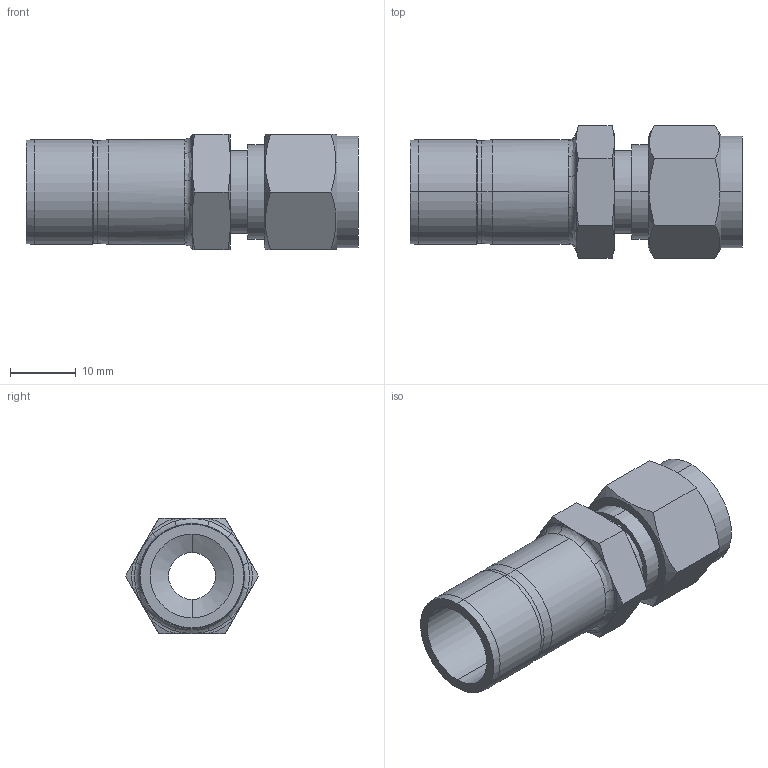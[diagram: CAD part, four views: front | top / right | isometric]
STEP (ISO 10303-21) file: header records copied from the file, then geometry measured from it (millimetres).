
FILE_DESCRIPTION (( 'STEP AP203' ), '1' );
FILE_NAME ('DRE06-10 SS.STEP', '2009-09-08T08:38:03', ( ' ' ), ( '' ), 'SwSTEP 2.0', 'SolidWorks 2008', '' );
FILE_SCHEMA (( 'CONFIG_CONTROL_DESIGN' ));
Length unit declared in the file: millimetre
Products named in the file (1): DRE06-10 SS
Bounding box: 50.4 x 20.16 x 17.46 mm (x, y, z)
Volume: 6020.6 mm3; surface area: 5038 mm2
Topology: 1 solids, 1 shells, 78 faces, 176 edges, 104 vertices
Faces by surface type: cone 24, plane 24, cylinder 18, bspline 6, torus 6
Entity records: 2593 total; most frequent: CARTESIAN_POINT 837, ORIENTED_EDGE 352, DIRECTION 348, EDGE_CURVE 176, AXIS2_PLACEMENT_3D 147, VERTEX_POINT 104, EDGE_LOOP 84, ADVANCED_FACE 78
